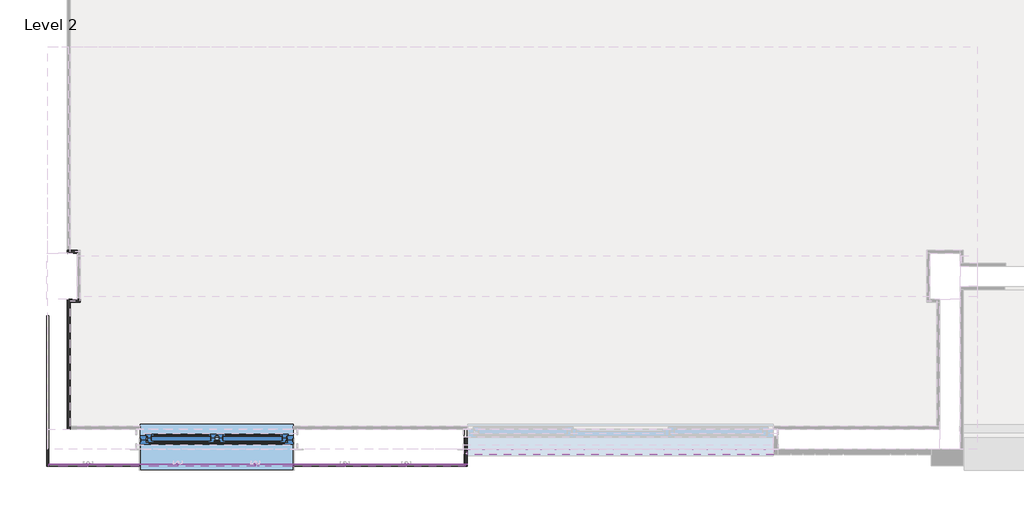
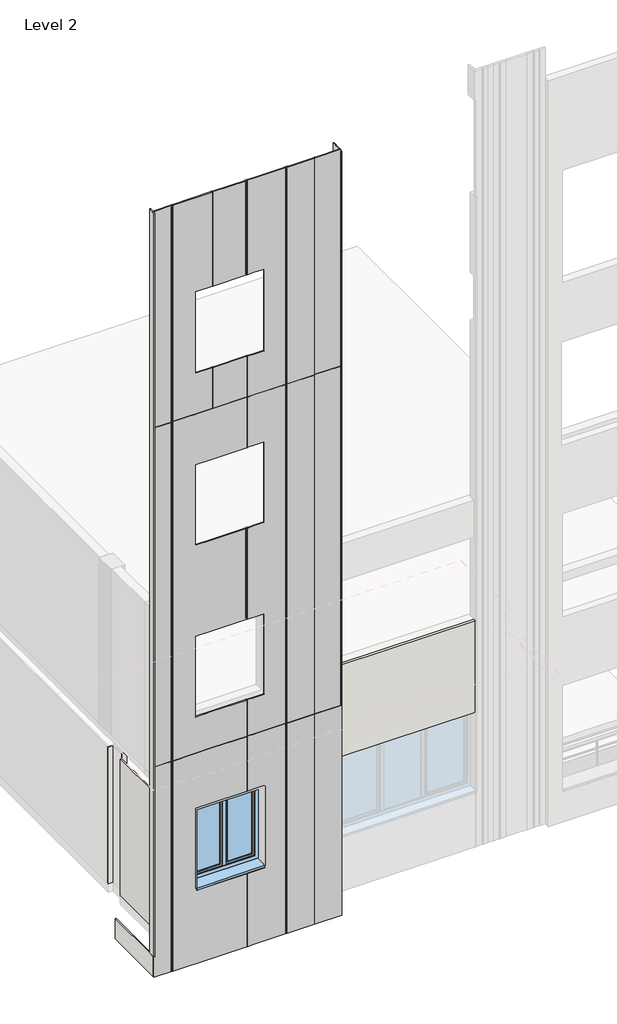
# One storey, part 1 of 3: 34 members, 16 plates, 8 walls, 1 window.
"""IFC4 building model written with IfcOpenShell, lengths in millimetres."""

from ifc_helpers import new_model, si_unit, frame, origin, place, context, project, spatial, polyline, outline, extrude, faceted_brep, transform, mapped, element, save
from components import circular_mullion_bz1_a1_mullion_cedae3f4, circular_mullion_bz1_a1_mullion_8e7961bc, circular_mullion_bz1_a1_mullion_760fcf40, circular_mullion_bz1_a1_mullion_cdbcedf2, circular_mullion_bz1_a1_mullion_96b2a463, circular_mullion_bz1_a1_mullion_186cd793, circular_mullion_bz1_a1_mullion_d469b72f, circular_mullion_bz1_a1_mullion_29318d9d, circular_mullion_bz1_a1_mullion_a37bb437, circular_mullion_bz1_a1_mullion_fa4fbc0e, circular_mullion_bz1_a1_mullion_d0ad5048, circular_mullion_bz1_a1_mullion_cc127a66, circular_mullion_bz1_a1_mullion_52fa444c, circular_mullion_bz1_a1_mullion_63dcf2e5, circular_mullion_bz1_a1_mullion_5795780b, circular_mullion_bz1_a1_mullion_f4887a20, circular_mullion_bz1_a1_mullion_b8262e4c, circular_mullion_bz1_a1_mullion_c4769f69, circular_mullion_bz1_a1_mullion_729713d3, circular_mullion_bz1_a1_mullion_a1f5a826, circular_mullion_bz1_a1_mullion_619e8430, bz1_windows_opening_hinge_s9000_double_vent_window_windows_b4b88814, bz1_windows_opening_hinge_s9000_double_vent_window_windows_c75da518

model = new_model("IFC4")

# Units and contexts
model_context = context("Model", 3, world=origin())
ifc_project = project(units=[si_unit("LENGTHUNIT", "METRE", prefix="MILLI")], contexts=[model_context])

# Site, building, storey
site = spatial("IfcSite", under=ifc_project)
building = spatial("IfcBuilding", under=site)
storey = spatial("IfcBuildingStorey", under=building, Name="Level 2", Elevation=4000.0)

# Members
placement = place(None, origin())
circular_mullion_bz1_a1_mullion_shape = circular_mullion_bz1_a1_mullion_cedae3f4(model_context)
element("IfcMember", 1, ObjectType="Circular Mullion : BZ1-A1-Mullion", at=placement, inside=storey, context=model_context, shape_type="MappedRepresentation", body=[
    mapped(circular_mullion_bz1_a1_mullion_shape, transform((-681.3999923, -5855.2459685, 3158.0), x_axis=(-1.0, 0.0, 0.0), y_axis=(0.0, 1.0, 0.0), z_axis=(0.0, 0.0, -1.0))),
])
element("IfcMember", 2, ObjectType="Circular Mullion : BZ1-A1-Mullion", at=placement, inside=storey, context=model_context, shape_type="MappedRepresentation", body=[
    mapped(circular_mullion_bz1_a1_mullion_shape, transform((-3807.2333254, -5855.2459685, 3158.0), x_axis=(-1.0, 0.0, 0.0), y_axis=(0.0, 1.0, 0.0), z_axis=(0.0, 0.0, -1.0))),
])
element("IfcMember", 3, ObjectType="Circular Mullion : BZ1-A1-Mullion", at=placement, inside=storey, context=model_context, shape_type="MappedRepresentation", body=[
    mapped(circular_mullion_bz1_a1_mullion_shape, transform((-1281.3999923, -5855.2459685, 3158.0), x_axis=(-1.0, 0.0, 0.0), y_axis=(0.0, 1.0, 0.0), z_axis=(0.0, 0.0, -1.0))),
])
circular_mullion_bz1_a1_mullion_2_shape = circular_mullion_bz1_a1_mullion_8e7961bc(model_context)
element("IfcMember", 4, ObjectType="Circular Mullion : BZ1-A1-Mullion", at=placement, inside=storey, context=model_context, shape_type="MappedRepresentation", body=[
    mapped(circular_mullion_bz1_a1_mullion_2_shape, transform((-681.3999923, -5855.2459685, 8057.563298), x_axis=(-1.0, 0.0, 0.0), y_axis=(0.0, 1.0, 0.0), z_axis=(0.0, 0.0, -1.0))),
])
element("IfcMember", 5, ObjectType="Circular Mullion : BZ1-A1-Mullion", at=placement, inside=storey, context=model_context, shape_type="MappedRepresentation", body=[
    mapped(circular_mullion_bz1_a1_mullion_2_shape, transform((-3807.2333254, -5855.2459685, 8057.563298), x_axis=(-1.0, 0.0, 0.0), y_axis=(0.0, 1.0, 0.0), z_axis=(0.0, 0.0, -1.0))),
])
element("IfcMember", 6, ObjectType="Circular Mullion : BZ1-A1-Mullion", at=placement, inside=storey, context=model_context, shape_type="MappedRepresentation", body=[
    mapped(circular_mullion_bz1_a1_mullion_2_shape, transform((-1281.3999923, -5855.2459685, 8057.563298), x_axis=(-1.0, 0.0, 0.0), y_axis=(0.0, 1.0, 0.0), z_axis=(0.0, 0.0, -1.0))),
])
circular_mullion_bz1_a1_mullion_3_shape = circular_mullion_bz1_a1_mullion_760fcf40(model_context)
element("IfcMember", 7, ObjectType="Circular Mullion : BZ1-A1-Mullion", at=placement, inside=storey, context=model_context, shape_type="MappedRepresentation", body=[
    mapped(circular_mullion_bz1_a1_mullion_3_shape, transform((-1256.3999923, -5855.2459685, 8057.563298), x_axis=(0.0, 0.0, 1.0), y_axis=(0.0, 1.0, 0.0), z_axis=(-1.0, 0.0, 0.0))),
])
element("IfcMember", 8, ObjectType="Circular Mullion : BZ1-A1-Mullion", at=placement, inside=storey, context=model_context, shape_type="MappedRepresentation", body=[
    mapped(circular_mullion_bz1_a1_mullion_3_shape, transform((-1256.3999923, -5855.2459685, 15957.1265959), x_axis=(0.0, 0.0, 1.0), y_axis=(0.0, 1.0, 0.0), z_axis=(-1.0, 0.0, 0.0))),
])
circular_mullion_bz1_a1_mullion_4_shape = circular_mullion_bz1_a1_mullion_cdbcedf2(model_context)
element("IfcMember", 9, ObjectType="Circular Mullion : BZ1-A1-Mullion", at=placement, inside=storey, context=model_context, shape_type="MappedRepresentation", body=[
    mapped(circular_mullion_bz1_a1_mullion_4_shape, transform((-3782.2333254, -5855.2459685, 8057.563298), x_axis=(0.0, 0.0, 1.0), y_axis=(0.0, 1.0, 0.0), z_axis=(-1.0, 0.0, 0.0))),
])
circular_mullion_bz1_a1_mullion_5_shape = circular_mullion_bz1_a1_mullion_96b2a463(model_context)
element("IfcMember", 10, ObjectType="Circular Mullion : BZ1-A1-Mullion", at=placement, inside=storey, context=model_context, shape_type="MappedRepresentation", body=[
    mapped(circular_mullion_bz1_a1_mullion_5_shape, transform((-2165.2888811, -5855.2459685, 10780.0), x_axis=(-1.0, 0.0, 0.0), y_axis=(0.0, 1.0, 0.0), z_axis=(0.0, 0.0, -1.0))),
])
circular_mullion_bz1_a1_mullion_6_shape = circular_mullion_bz1_a1_mullion_186cd793(model_context)
element("IfcMember", 11, ObjectType="Circular Mullion : BZ1-A1-Mullion", at=placement, inside=storey, context=model_context, shape_type="MappedRepresentation", body=[
    mapped(circular_mullion_bz1_a1_mullion_6_shape, transform((-2165.2888811, -5855.2459685, 3158.0), x_axis=(-1.0, 0.0, 0.0), y_axis=(0.0, 1.0, 0.0), z_axis=(0.0, 0.0, -1.0))),
])
circular_mullion_bz1_a1_mullion_7_shape = circular_mullion_bz1_a1_mullion_d469b72f(model_context)
element("IfcMember", 12, ObjectType="Circular Mullion : BZ1-A1-Mullion", at=placement, inside=storey, context=model_context, shape_type="MappedRepresentation", body=[
    mapped(circular_mullion_bz1_a1_mullion_7_shape, transform((-2165.2888811, -5855.2459685, 6778.0), x_axis=(-1.0, 0.0, 0.0), y_axis=(0.0, 1.0, 0.0), z_axis=(0.0, 0.0, -1.0))),
])
circular_mullion_bz1_a1_mullion_8_shape = circular_mullion_bz1_a1_mullion_29318d9d(model_context)
element("IfcMember", 13, ObjectType="Circular Mullion : BZ1-A1-Mullion", at=placement, inside=storey, context=model_context, shape_type="MappedRepresentation", body=[
    mapped(circular_mullion_bz1_a1_mullion_8_shape, transform((-2165.2888811, -5855.2459685, 14780.0), x_axis=(-1.0, 0.0, 0.0), y_axis=(0.0, 1.0, 0.0), z_axis=(0.0, 0.0, -1.0))),
])
circular_mullion_bz1_a1_mullion_9_shape = circular_mullion_bz1_a1_mullion_a37bb437(model_context)
element("IfcMember", 14, ObjectType="Circular Mullion : BZ1-A1-Mullion", at=placement, inside=storey, context=model_context, shape_type="MappedRepresentation", body=[
    mapped(circular_mullion_bz1_a1_mullion_9_shape, transform((-2165.2888811, -5855.2459685, 8057.563298), x_axis=(-1.0, 0.0, 0.0), y_axis=(0.0, 1.0, 0.0), z_axis=(0.0, 0.0, -1.0))),
])
circular_mullion_bz1_a1_mullion_10_shape = circular_mullion_bz1_a1_mullion_fa4fbc0e(model_context)
element("IfcMember", 15, ObjectType="Circular Mullion : BZ1-A1-Mullion", at=placement, inside=storey, context=model_context, shape_type="MappedRepresentation", body=[
    mapped(circular_mullion_bz1_a1_mullion_10_shape, transform((-2165.2888811, -5855.2459685, 15957.1265959), x_axis=(-1.0, 0.0, 0.0), y_axis=(0.0, 1.0, 0.0), z_axis=(0.0, 0.0, -1.0))),
])
circular_mullion_bz1_a1_mullion_11_shape = circular_mullion_bz1_a1_mullion_d0ad5048(model_context)
element("IfcMember", 16, ObjectType="Circular Mullion : BZ1-A1-Mullion", at=placement, inside=storey, context=model_context, shape_type="MappedRepresentation", body=[
    mapped(circular_mullion_bz1_a1_mullion_11_shape, transform((-2009.0851774, -5855.2459685, 8057.563298), x_axis=(0.0, 0.0, 1.0), y_axis=(0.0, 1.0, 0.0), z_axis=(-1.0, 0.0, 0.0))),
])
element("IfcMember", 17, ObjectType="Circular Mullion : BZ1-A1-Mullion", at=placement, inside=storey, context=model_context, shape_type="MappedRepresentation", body=[
    mapped(circular_mullion_bz1_a1_mullion_11_shape, transform((-2009.0851774, -5855.2459685, 15957.1265959), x_axis=(0.0, 0.0, 1.0), y_axis=(0.0, 1.0, 0.0), z_axis=(-1.0, 0.0, 0.0))),
])
circular_mullion_bz1_a1_mullion_12_shape = circular_mullion_bz1_a1_mullion_cc127a66(model_context)
element("IfcMember", 18, ObjectType="Circular Mullion : BZ1-A1-Mullion", at=placement, inside=storey, context=model_context, shape_type="MappedRepresentation", body=[
    mapped(circular_mullion_bz1_a1_mullion_12_shape, transform((-2123.3444367, -5855.2459685, 8057.563298), x_axis=(0.0, 0.0, 1.0), y_axis=(0.0, 1.0, 0.0), z_axis=(-1.0, 0.0, 0.0))),
])
element("IfcMember", 19, ObjectType="Circular Mullion : BZ1-A1-Mullion", at=placement, inside=storey, context=model_context, shape_type="MappedRepresentation", body=[
    mapped(circular_mullion_bz1_a1_mullion_12_shape, transform((-2123.3444367, -5855.2459685, 15957.1265959), x_axis=(0.0, 0.0, 1.0), y_axis=(0.0, 1.0, 0.0), z_axis=(-1.0, 0.0, 0.0))),
])
circular_mullion_bz1_a1_mullion_13_shape = circular_mullion_bz1_a1_mullion_52fa444c(model_context)
element("IfcMember", 20, ObjectType="Circular Mullion : BZ1-A1-Mullion", at=placement, inside=storey, context=model_context, shape_type="MappedRepresentation", body=[
    mapped(circular_mullion_bz1_a1_mullion_13_shape, transform((-3782.2333254, -5855.2459685, 15957.1265959), x_axis=(0.0, 0.0, 1.0), y_axis=(0.0, 1.0, 0.0), z_axis=(-1.0, 0.0, 0.0))),
])
circular_mullion_bz1_a1_mullion_14_shape = circular_mullion_bz1_a1_mullion_63dcf2e5(model_context)
element("IfcMember", 21, ObjectType="Circular Mullion : BZ1-A1-Mullion", at=placement, inside=storey, context=model_context, shape_type="MappedRepresentation", body=[
    mapped(circular_mullion_bz1_a1_mullion_14_shape, transform((-2923.3444367, -5855.2459685, 15932.1265959), x_axis=(-1.0, 0.0, 0.0), y_axis=(0.0, 1.0, 0.0), z_axis=(0.0, 0.0, -1.0))),
])
circular_mullion_bz1_a1_mullion_15_shape = circular_mullion_bz1_a1_mullion_5795780b(model_context)
element("IfcMember", 22, ObjectType="Circular Mullion : BZ1-A1-Mullion", at=placement, inside=storey, context=model_context, shape_type="MappedRepresentation", body=[
    mapped(circular_mullion_bz1_a1_mullion_15_shape, transform((-2140.2888811, -5855.2459685, 8057.563298), x_axis=(0.0, 0.0, 1.0), y_axis=(0.0, 1.0, 0.0), z_axis=(-1.0, 0.0, 0.0))),
])
element("IfcMember", 23, ObjectType="Circular Mullion : BZ1-A1-Mullion", at=placement, inside=storey, context=model_context, shape_type="MappedRepresentation", body=[
    mapped(circular_mullion_bz1_a1_mullion_15_shape, transform((-2140.2888811, -5855.2459685, 15957.1265959), x_axis=(0.0, 0.0, 1.0), y_axis=(0.0, 1.0, 0.0), z_axis=(-1.0, 0.0, 0.0))),
])
circular_mullion_bz1_a1_mullion_16_shape = circular_mullion_bz1_a1_mullion_f4887a20(model_context)
element("IfcMember", 24, ObjectType="Circular Mullion : BZ1-A1-Mullion", at=placement, inside=storey, context=model_context, shape_type="MappedRepresentation", body=[
    mapped(circular_mullion_bz1_a1_mullion_16_shape, transform((-2923.3444367, -5855.2459685, 8057.563298), x_axis=(0.0, 0.0, 1.0), y_axis=(0.0, 1.0, 0.0), z_axis=(-1.0, 0.0, 0.0))),
])
circular_mullion_bz1_a1_mullion_17_shape = circular_mullion_bz1_a1_mullion_b8262e4c(model_context)
element("IfcMember", 25, ObjectType="Circular Mullion : BZ1-A1-Mullion", at=placement, inside=storey, context=model_context, shape_type="MappedRepresentation", body=[
    mapped(circular_mullion_bz1_a1_mullion_17_shape, transform((-2898.3444367, -5855.2459685, 15957.1265959), x_axis=(0.0, 0.0, 1.0), y_axis=(0.0, 1.0, 0.0), z_axis=(-1.0, 0.0, 0.0))),
])
circular_mullion_bz1_a1_mullion_18_shape = circular_mullion_bz1_a1_mullion_c4769f69(model_context)
element("IfcMember", 26, ObjectType="Circular Mullion : BZ1-A1-Mullion", at=placement, inside=storey, context=model_context, shape_type="MappedRepresentation", body=[
    mapped(circular_mullion_bz1_a1_mullion_18_shape, transform((-4193.0666589, -5855.2459685, 8057.563298), x_axis=(0.0, 0.0, 1.0), y_axis=(0.0, 1.0, 0.0), z_axis=(-1.0, 0.0, 0.0))),
])
element("IfcMember", 27, ObjectType="Circular Mullion : BZ1-A1-Mullion", at=placement, inside=storey, context=model_context, shape_type="MappedRepresentation", body=[
    mapped(circular_mullion_bz1_a1_mullion_18_shape, transform((-4193.0666589, -5855.2459685, 15957.1265959), x_axis=(0.0, 0.0, 1.0), y_axis=(0.0, 1.0, 0.0), z_axis=(-1.0, 0.0, 0.0))),
])
circular_mullion_bz1_a1_mullion_19_shape = circular_mullion_bz1_a1_mullion_729713d3(model_context)
element("IfcMember", 28, ObjectType="Circular Mullion : BZ1-A1-Mullion", at=placement, inside=storey, context=model_context, shape_type="MappedRepresentation", body=[
    mapped(circular_mullion_bz1_a1_mullion_19_shape, transform((-656.3999923, -5855.2459685, 8057.563298), x_axis=(0.0, 0.0, 1.0), y_axis=(0.0, 1.0, 0.0), z_axis=(-1.0, 0.0, 0.0))),
])
element("IfcMember", 29, ObjectType="Circular Mullion : BZ1-A1-Mullion", at=placement, inside=storey, context=model_context, shape_type="MappedRepresentation", body=[
    mapped(circular_mullion_bz1_a1_mullion_19_shape, transform((-656.3999923, -5855.2459685, 15957.1265959), x_axis=(0.0, 0.0, 1.0), y_axis=(0.0, 1.0, 0.0), z_axis=(-1.0, 0.0, 0.0))),
])
circular_mullion_bz1_a1_mullion_20_shape = circular_mullion_bz1_a1_mullion_a1f5a826(model_context)
element("IfcMember", 30, ObjectType="Circular Mullion : BZ1-A1-Mullion", at=placement, inside=storey, context=model_context, shape_type="MappedRepresentation", body=[
    mapped(circular_mullion_bz1_a1_mullion_20_shape, transform((-681.3999923, -5855.2459685, 15957.1265959), x_axis=(-1.0, 0.0, 0.0), y_axis=(0.0, 1.0, 0.0), z_axis=(0.0, 0.0, -1.0))),
])
element("IfcMember", 31, ObjectType="Circular Mullion : BZ1-A1-Mullion", at=placement, inside=storey, context=model_context, shape_type="MappedRepresentation", body=[
    mapped(circular_mullion_bz1_a1_mullion_20_shape, transform((-3807.2333254, -5855.2459685, 15957.1265959), x_axis=(-1.0, 0.0, 0.0), y_axis=(0.0, 1.0, 0.0), z_axis=(0.0, 0.0, -1.0))),
])
element("IfcMember", 32, ObjectType="Circular Mullion : BZ1-A1-Mullion", at=placement, inside=storey, context=model_context, shape_type="MappedRepresentation", body=[
    mapped(circular_mullion_bz1_a1_mullion_20_shape, transform((-1281.3999923, -5855.2459685, 15957.1265959), x_axis=(-1.0, 0.0, 0.0), y_axis=(0.0, 1.0, 0.0), z_axis=(0.0, 0.0, -1.0))),
])
circular_mullion_bz1_a1_mullion_21_shape = circular_mullion_bz1_a1_mullion_619e8430(model_context)
element("IfcMember", 33, ObjectType="Circular Mullion : BZ1-A1-Mullion", at=placement, inside=storey, context=model_context, shape_type="MappedRepresentation", body=[
    mapped(circular_mullion_bz1_a1_mullion_21_shape, transform((-2165.2888811, -5855.2459685, 18805.0), x_axis=(-1.0, 0.0, 0.0), y_axis=(0.0, 1.0, 0.0), z_axis=(0.0, 0.0, -1.0))),
])
element("IfcMember", 34, ObjectType="Circular Mullion : BZ1-A1-Mullion", at=placement, inside=storey, context=model_context, shape_type="MappedRepresentation", body=[
    mapped(circular_mullion_bz1_a1_mullion_21_shape, transform((-2923.3444367, -5855.2459685, 18805.0), x_axis=(-1.0, 0.0, 0.0), y_axis=(0.0, 1.0, 0.0), z_axis=(0.0, 0.0, -1.0))),
])

# Plates
element("IfcPlate", 35, ObjectType="BZ1_fnsh_cement panel", at=placement, inside=storey, context=model_context, shape_type="Brep", body=[
    faceted_brep([(-3812.2333254, -5845.2459685, 15962.1265959), (-4193.0666589, -5845.2459685, 15962.1265959), (-4193.0666589, -5845.2459685, 21000.0), (-3812.2333254, -5845.2459685, 21000.0), (-3812.2333254, -5865.2459685, 15962.1265959), (-3812.2333254, -5865.2459685, 21000.0), (-4193.0666589, -5865.2459685, 21000.0), (-4193.0666589, -5865.2459685, 20947.950455), (-4193.0666589, -5865.2459685, 15962.1265959)], [[[0, 1, 2, 3]], [[4, 5, 6, 7, 8]], [[1, 0, 4, 8]], [[3, 2, 6, 5]], [[0, 3, 5, 4]], [[2, 1, 8, 7, 6]]]),
])
element("IfcPlate", 36, ObjectType="BZ1_fnsh_cement panel", at=placement, inside=storey, context=model_context, shape_type="SweptSolid", body=[
    extrude(outline(polyline([(-1276.3999923, -5845.2459685), (-686.3999923, -5845.2459685), (-686.3999923, -5865.2459685), (-1276.3999923, -5865.2459685), (-1276.3999923, -5845.2459685)])), frame((0.0, 0.0, 15962.1265959), z_axis=(0.0, 0.0, 1.0), x_axis=(1.0, 0.0, 0.0)), (0.0, 0.0, 1.0), 5037.8734041),
])
element("IfcPlate", 37, ObjectType="BZ1_fnsh_cement panel", at=placement, inside=storey, context=model_context, shape_type="Brep", body=[
    faceted_brep([(-100.2322612, -5845.2459685, 15962.1265959), (-676.3999923, -5845.2459685, 15962.1265959), (-676.3999923, -5845.2459685, 21000.0), (-100.2322612, -5845.2459685, 21000.0), (-100.2322612, -5865.2459685, 15962.1265959), (-100.2322612, -5865.2459685, 20955.8224517), (-100.2322612, -5865.2459685, 21000.0), (-676.3999923, -5865.2459685, 21000.0), (-676.3999923, -5865.2459685, 15962.1265959)], [[[0, 1, 2, 3]], [[4, 5, 6, 7, 8]], [[1, 0, 4, 8]], [[2, 1, 8, 7]], [[3, 2, 7, 6]], [[0, 3, 6, 5, 4]]]),
])
element("IfcPlate", 38, ObjectType="BZ1_fnsh_cement panel", at=placement, inside=storey, context=model_context, shape_type="SweptSolid", body=[
    extrude(outline(polyline([(-4193.0666589, -5845.2459685), (-3812.2333254, -5845.2459685), (-3812.2333254, -5865.2459685), (-4193.0666589, -5865.2459685), (-4193.0666589, -5845.2459685)])), frame((0.0, 0.0, 8062.563298), z_axis=(0.0, 0.0, 1.0), x_axis=(1.0, 0.0, 0.0)), (0.0, 0.0, 1.0), 7889.563298),
])
element("IfcPlate", 39, ObjectType="BZ1_fnsh_cement panel", at=placement, inside=storey, context=model_context, shape_type="SweptSolid", body=[
    extrude(outline(polyline([(-1276.3999923, -5845.2459685), (-686.3999923, -5845.2459685), (-686.3999923, -5865.2459685), (-1276.3999923, -5865.2459685), (-1276.3999923, -5845.2459685)])), frame((0.0, 0.0, 8062.563298), z_axis=(0.0, 0.0, 1.0), x_axis=(1.0, 0.0, 0.0)), (0.0, 0.0, 1.0), 7889.563298),
])
element("IfcPlate", 40, ObjectType="BZ1_fnsh_cement panel", at=placement, inside=storey, context=model_context, shape_type="Brep", body=[
    faceted_brep([(-100.2322612, -5845.2459685, 8062.563298), (-676.3999923, -5845.2459685, 8062.563298), (-676.3999923, -5845.2459685, 15952.1265959), (-100.2322612, -5845.2459685, 15952.1265959), (-100.2322612, -5865.2459685, 8062.563298), (-100.2322612, -5865.2459685, 15952.1265959), (-676.3999923, -5865.2459685, 15952.1265959), (-676.3999923, -5865.2459685, 8062.563298), (-100.2322612, -5855.2459685, 8062.563298)], [[[0, 1, 2, 3]], [[4, 5, 6, 7]], [[1, 0, 8, 4, 7]], [[2, 1, 7, 6]], [[3, 2, 6, 5]], [[0, 3, 5, 4, 8]]]),
])
element("IfcPlate", 41, ObjectType="BZ1_fnsh_cement panel", at=placement, inside=storey, context=model_context, shape_type="SweptSolid", body=[
    extrude(outline(polyline([(3158.0, -3812.2333254), (8052.563298, -3812.2333254), (8052.563298, -4193.0666589), (3630.0, -4193.0666589), (3630.0, -4213.0666589), (3158.0, -4213.0666589), (3158.0, -3812.2333254)])), frame((0.0, -5865.2459685, 0.0), z_axis=(0.0, 1.0, 0.0), x_axis=(0.0, 0.0, 1.0)), (0.0, 0.0, 1.0), 20.0),
])
element("IfcPlate", 42, ObjectType="BZ1_fnsh_cement panel", at=placement, inside=storey, context=model_context, shape_type="SweptSolid", body=[
    extrude(outline(polyline([(-1276.3999923, -5845.2459685), (-686.3999923, -5845.2459685), (-686.3999923, -5865.2459685), (-1276.3999923, -5865.2459685), (-1276.3999923, -5845.2459685)])), frame((0.0, 0.0, 3158.0), z_axis=(0.0, 0.0, 1.0), x_axis=(1.0, 0.0, 0.0)), (0.0, 0.0, 1.0), 4894.563298),
])
element("IfcPlate", 43, ObjectType="BZ1_fnsh_cement panel", at=placement, inside=storey, context=model_context, shape_type="Brep", body=[
    faceted_brep([(-80.2322612, -5845.2459685, 3158.0), (-676.3999923, -5845.2459685, 3158.0), (-676.3999923, -5845.2459685, 8052.563298), (-100.2322612, -5845.2459685, 8052.563298), (-100.2322612, -5845.2459685, 3629.0348953), (-80.2322612, -5845.2459685, 3629.0348953), (-676.3999923, -5865.2459685, 3158.0), (-80.2322612, -5865.2459685, 3158.0), (-80.2322612, -5865.2459685, 8052.563298), (-676.3999923, -5865.2459685, 8052.563298), (-80.2322612, -5855.2459685, 8052.563298), (-100.2322612, -5855.2459685, 8052.563298), (-80.2322612, -5855.2459685, 3629.0348953), (-100.2322612, -5855.2459685, 3630.0), (-100.2322612, -5855.2459685, 3629.0348953), (-89.3166589, -5855.2459685, 3629.0348953)], [[[0, 1, 2, 3, 4, 5]], [[6, 7, 8, 9]], [[1, 0, 7, 6]], [[2, 1, 6, 9]], [[9, 8, 10, 11, 3, 2]], [[8, 7, 0, 5, 12, 10]], [[11, 13, 14, 4, 3]], [[14, 15, 12, 5, 4]], [[12, 15, 14, 13, 11, 10]]]),
])
element("IfcPlate", 44, ObjectType="BZ1_fnsh_cement panel", at=placement, inside=storey, context=model_context, shape_type="Brep", body=[
    faceted_brep([(-1286.3999923, -5845.2459685, 3158.0), (-2009.0851774, -5845.2459685, 3158.0), (-2123.3444367, -5845.2459685, 3158.0), (-2160.2888811, -5845.2459685, 3158.0), (-2160.2888811, -5845.2459685, 4900.0), (-2123.3444367, -5845.2459685, 4900.0), (-2009.0851774, -5845.2459685, 4900.0), (-1780.5666589, -5845.2459685, 4900.0), (-1780.5666589, -5845.2459685, 6778.0), (-2009.0851774, -5845.2459685, 6778.0), (-2123.3444367, -5845.2459685, 6778.0), (-2160.2888811, -5845.2459685, 6778.0), (-2160.2888811, -5845.2459685, 8052.563298), (-2123.3444367, -5845.2459685, 8052.563298), (-2009.0851774, -5845.2459685, 8052.563298), (-1286.3999923, -5845.2459685, 8052.563298), (-2160.2888811, -5865.2459685, 3158.0), (-2123.3444367, -5865.2459685, 3158.0), (-2009.0851774, -5865.2459685, 3158.0), (-1286.3999923, -5865.2459685, 3158.0), (-1286.3999923, -5865.2459685, 8052.563298), (-2009.0851774, -5865.2459685, 8052.563298), (-2123.3444367, -5865.2459685, 8052.563298), (-2160.2888811, -5865.2459685, 8052.563298), (-2160.2888811, -5865.2459685, 6778.0), (-2123.3444367, -5865.2459685, 6778.0), (-2009.0851774, -5865.2459685, 6778.0), (-1780.5666589, -5865.2459685, 6778.0), (-1780.5666589, -5865.2459685, 4900.0), (-2009.0851774, -5865.2459685, 4900.0), (-2123.3444367, -5865.2459685, 4900.0), (-2160.2888811, -5865.2459685, 4900.0)], [[[0, 1, 2, 3, 4, 5, 6, 7, 8, 9, 10, 11, 12, 13, 14, 15]], [[16, 17, 18, 19, 20, 21, 22, 23, 24, 25, 26, 27, 28, 29, 30, 31]], [[17, 16, 3, 2, 1, 0, 19, 18]], [[7, 28, 27, 8]], [[8, 27, 26, 9]], [[14, 21, 20, 15]], [[15, 20, 19, 0]], [[5, 30, 29, 6]], [[10, 25, 24, 11]], [[12, 23, 22, 13]], [[6, 29, 28, 7]], [[13, 22, 21, 14]], [[9, 26, 25, 10]], [[31, 4, 3, 16]], [[4, 31, 30, 5]], [[11, 24, 23, 12]]]),
])
element("IfcPlate", 45, ObjectType="BZ1_fnsh_cement panel", at=placement, inside=storey, context=model_context, shape_type="SweptSolid", body=[
    extrude(outline(polyline([(10780.0, -2009.0851774), (10780.0, -1780.5666589), (8904.0, -1780.5666589), (8904.0, -2009.0851774), (8904.0, -2123.3444367), (8904.0, -2160.2888811), (8062.563298, -2160.2888811), (8062.563298, -2123.3444367), (8062.563298, -2009.0851774), (8062.563298, -1286.3999923), (15952.1265959, -1286.3999923), (15952.1265959, -2009.0851774), (15952.1265959, -2123.3444367), (15952.1265959, -2160.2888811), (14780.0, -2160.2888811), (14780.0, -2123.3444367), (14780.0, -2009.0851774), (14780.0, -1780.5666589), (12904.0, -1780.5666589), (12904.0, -2009.0851774), (12904.0, -2123.3444367), (12904.0, -2160.2888811), (10780.0, -2160.2888811), (10780.0, -2123.3444367), (10780.0, -2009.0851774)])), frame((0.0, -5865.2459685, 0.0), z_axis=(0.0, 1.0, 0.0), x_axis=(0.0, 0.0, 1.0)), (0.0, 0.0, 1.0), 20.0),
])
element("IfcPlate", 46, ObjectType="BZ1_fnsh_cement panel", at=placement, inside=storey, context=model_context, shape_type="Brep", body=[
    faceted_brep([(-2160.2888811, -5845.2459685, 21000.0), (-2123.3444367, -5845.2459685, 21000.0), (-2009.0851774, -5845.2459685, 21000.0), (-1286.3999923, -5845.2459685, 21000.0), (-1286.3999923, -5845.2459685, 15962.1265959), (-2009.0851774, -5845.2459685, 15962.1265959), (-2123.3444367, -5845.2459685, 15962.1265959), (-2160.2888811, -5845.2459685, 15962.1265959), (-2160.2888811, -5845.2459685, 16904.0), (-2123.3444367, -5845.2459685, 16904.0), (-2009.0851774, -5845.2459685, 16904.0), (-1780.5666589, -5845.2459685, 16904.0), (-1780.5666589, -5845.2459685, 18805.0), (-2009.0851774, -5845.2459685, 18805.0), (-2123.3444367, -5845.2459685, 18805.0), (-2160.2888811, -5845.2459685, 18805.0), (-1286.3999923, -5865.2459685, 21000.0), (-2009.0851774, -5865.2459685, 21000.0), (-2123.3444367, -5865.2459685, 21000.0), (-2160.2888811, -5865.2459685, 21000.0), (-2160.2888811, -5865.2459685, 18805.0), (-2123.3444367, -5865.2459685, 18805.0), (-2009.0851774, -5865.2459685, 18805.0), (-1780.5666589, -5865.2459685, 18805.0), (-1780.5666589, -5865.2459685, 16904.0), (-2009.0851774, -5865.2459685, 16904.0), (-2123.3444367, -5865.2459685, 16904.0), (-2160.2888811, -5865.2459685, 16904.0), (-2160.2888811, -5865.2459685, 15962.1265959), (-2123.3444367, -5865.2459685, 15962.1265959), (-2009.0851774, -5865.2459685, 15962.1265959), (-1286.3999923, -5865.2459685, 15962.1265959)], [[[0, 1, 2, 3, 4, 5, 6, 7, 8, 9, 10, 11, 12, 13, 14, 15]], [[16, 17, 18, 19, 20, 21, 22, 23, 24, 25, 26, 27, 28, 29, 30, 31]], [[17, 16, 3, 2, 1, 0, 19, 18]], [[11, 24, 23, 12]], [[12, 23, 22, 13]], [[30, 5, 4, 31]], [[31, 4, 3, 16]], [[9, 26, 25, 10]], [[10, 25, 24, 11]], [[5, 30, 29, 6]], [[13, 22, 21, 14]], [[6, 29, 28, 7]], [[7, 28, 27, 8]], [[8, 27, 26, 9]], [[14, 21, 20, 15]], [[15, 20, 19, 0]]]),
])
element("IfcPlate", 47, ObjectType="BZ1_fnsh_cement panel", at=placement, inside=storey, context=model_context, shape_type="SweptSolid", body=[
    extrude(outline(polyline([(8062.563298, -2923.3444367), (8062.563298, -2170.2888811), (8904.0, -2170.2888811), (8904.0, -2923.3444367), (8904.0, -3300.5666589), (10780.0, -3300.5666589), (10780.0, -2923.3444367), (10780.0, -2170.2888811), (12904.0, -2170.2888811), (12904.0, -2923.3444367), (12904.0, -3300.5666589), (14780.0, -3300.5666589), (14780.0, -2923.3444367), (14780.0, -2170.2888811), (15952.1265959, -2170.2888811), (15952.1265959, -2923.3444367), (15952.1265959, -3802.2333254), (8062.563298, -3802.2333254), (8062.563298, -2923.3444367)])), frame((0.0, -5865.2459685, 0.0), z_axis=(0.0, 1.0, 0.0), x_axis=(0.0, 0.0, 1.0)), (0.0, 0.0, 1.0), 20.0),
])
element("IfcPlate", 48, ObjectType="BZ1_fnsh_cement panel", at=placement, inside=storey, context=model_context, shape_type="Brep", body=[
    faceted_brep([(-2170.2888811, -5845.2459685, 3158.0), (-2923.3444367, -5845.2459685, 3158.0), (-3802.2333254, -5845.2459685, 3158.0), (-3802.2333254, -5845.2459685, 8052.563298), (-2923.3444367, -5845.2459685, 8052.563298), (-2170.2888811, -5845.2459685, 8052.563298), (-2170.2888811, -5845.2459685, 6778.0), (-2923.3444367, -5845.2459685, 6778.0), (-3300.5666589, -5845.2459685, 6778.0), (-3300.5666589, -5845.2459685, 4900.0), (-2923.3444367, -5845.2459685, 4900.0), (-2170.2888811, -5845.2459685, 4900.0), (-3802.2333254, -5865.2459685, 3158.0), (-2923.3444367, -5865.2459685, 3158.0), (-2170.2888811, -5865.2459685, 3158.0), (-2170.2888811, -5865.2459685, 4900.0), (-2923.3444367, -5865.2459685, 4900.0), (-3300.5666589, -5865.2459685, 4900.0), (-3300.5666589, -5865.2459685, 6778.0), (-2923.3444367, -5865.2459685, 6778.0), (-2170.2888811, -5865.2459685, 6778.0), (-2170.2888811, -5865.2459685, 8052.563298), (-2923.3444367, -5865.2459685, 8052.563298), (-3802.2333254, -5865.2459685, 8052.563298)], [[[0, 1, 2, 3, 4, 5, 6, 7, 8, 9, 10, 11]], [[12, 13, 14, 15, 16, 17, 18, 19, 20, 21, 22, 23]], [[13, 12, 2, 1, 0, 14]], [[23, 3, 2, 12]], [[3, 23, 22, 4]], [[4, 22, 21, 5]], [[5, 21, 20, 6]], [[6, 20, 19, 7]], [[7, 19, 18, 8]], [[8, 18, 17, 9]], [[9, 17, 16, 10]], [[10, 16, 15, 11]], [[11, 15, 14, 0]]]),
])
element("IfcPlate", 49, ObjectType="BZ1_fnsh_cement panel", at=placement, inside=storey, context=model_context, shape_type="SweptSolid", body=[
    extrude(outline(polyline([(-2918.3444367, -5865.2459685), (-2918.3444367, -5845.2459685), (-2170.2888811, -5845.2459685), (-2170.2888811, -5865.2459685), (-2918.3444367, -5865.2459685)])), frame((0.0, 0.0, 18805.0), z_axis=(0.0, 0.0, 1.0), x_axis=(1.0, 0.0, 0.0)), (0.0, 0.0, 1.0), 2195.0),
    extrude(outline(polyline([(-2918.3444367, -5865.2459685), (-2918.3444367, -5845.2459685), (-2170.2888811, -5845.2459685), (-2170.2888811, -5865.2459685), (-2918.3444367, -5865.2459685)])), frame((0.0, 0.0, 15962.1265959), z_axis=(0.0, 0.0, 1.0), x_axis=(1.0, 0.0, 0.0)), (0.0, 0.0, 1.0), 941.8734041),
])
element("IfcPlate", 50, ObjectType="BZ1_fnsh_cement panel", at=placement, inside=storey, context=model_context, shape_type="SweptSolid", body=[
    extrude(outline(polyline([(21000.0, -2928.3444367), (21000.0, -3802.2333254), (15962.1265959, -3802.2333254), (15962.1265959, -2928.3444367), (16904.0, -2928.3444367), (16904.0, -3300.5666589), (18805.0, -3300.5666589), (18805.0, -2928.3444367), (21000.0, -2928.3444367)])), frame((0.0, -5865.2459685, 0.0), z_axis=(0.0, 1.0, 0.0), x_axis=(0.0, 0.0, 1.0)), (0.0, 0.0, 1.0), 20.0),
])

# Walls
element("IfcWall", 51, ObjectType="BZ1_fnsh_white stucoo_5cm", at=placement, inside=storey, context=model_context, shape_type="Brep", body=[
    faceted_brep([(-80.2322612, -5700.9799478, 8900.0), (2927.4333411, -5700.9799478, 8900.0), (2927.4333411, -5700.9799478, 7670.0), (2927.4333411, -5700.9799478, 6770.0), (2922.4333411, -5700.9799478, 6770.0), (2922.4333411, -5700.9799478, 6810.0), (-80.2322612, -5700.9799478, 6810.0), (-80.2322612, -5750.9799478, 6770.0), (2927.4333411, -5750.9799478, 6770.0), (2927.4333411, -5750.9799478, 8900.0), (-80.2322612, -5750.9799478, 8900.0), (2922.4333411, -5743.4647185, 6810.0), (-80.2322612, -5743.4647185, 6810.0), (2922.4333411, -5743.4647185, 6770.0), (-80.2322612, -5743.4647185, 6770.0)], [[[0, 1, 2, 3, 4, 5, 6]], [[7, 8, 9, 10]], [[3, 2, 1, 9, 8]], [[5, 11, 12, 6]], [[11, 13, 14, 12]], [[8, 7, 14, 13, 4, 3]], [[1, 0, 10, 9]], [[13, 11, 5, 4]], [[7, 10, 0, 6, 12, 14]]]),
])
element("IfcWall", 52, ObjectType="BZ1_fnsh_gypsun3cm", at=placement, inside=storey, context=model_context, shape_type="Brep", body=[
    faceted_brep([(-3980.5666589, -5500.9647185, 4000.0), (-3980.5666589, -4255.9647185, 4000.0), (-3980.5666589, -4225.9647185, 4000.0), (-3980.5666589, -4225.9647185, 7175.0), (-3980.5666589, -5500.9647185, 7175.0), (-4010.5666589, -5500.9647185, 4000.0), (-4010.5666589, -5500.9647185, 7175.0), (-4010.5666589, -4225.9647185, 7175.0), (-4010.5666589, -4225.9647185, 4000.0)], [[[0, 1, 2, 3, 4]], [[5, 6, 7, 8]], [[2, 1, 0, 5, 8]], [[4, 3, 7, 6]], [[0, 4, 6, 5]], [[3, 2, 8, 7]]]),
])
element("IfcWall", 53, ObjectType="BZ1_fnsh_gypsun3cm", at=placement, inside=storey, context=model_context, shape_type="Brep", body=[
    faceted_brep([(-3980.5666589, -4255.9647185, 4000.0), (-3880.5666589, -4255.9647185, 4000.0), (-3880.5666589, -4255.9647185, 7300.0), (-3980.5666589, -4255.9647185, 7300.0), (-3980.5666589, -4225.9647185, 4000.0), (-3980.5666589, -4225.9647185, 7175.0), (-3980.5666589, -4225.9647185, 7300.0), (-3880.5666589, -4225.9647185, 7300.0), (-3880.5666589, -4225.9647185, 7180.0), (-3880.5666589, -4225.9647185, 4000.0), (-3910.5666589, -4225.9647185, 4000.0)], [[[0, 1, 2, 3]], [[4, 5, 6, 7, 8, 9, 10]], [[1, 0, 4, 10, 9]], [[3, 2, 7, 6]], [[0, 3, 6, 5, 4]], [[2, 1, 9, 8, 7]]]),
])
element("IfcWall", 54, ObjectType="BZ1_fnsh_gypsun3cm", at=placement, inside=storey, context=model_context, shape_type="Brep", body=[
    faceted_brep([(-3910.5666589, -3745.9647185, 4000.0), (-3980.5666589, -3745.9647185, 4000.0), (-4010.5666589, -3745.9647185, 4000.0), (-4010.5666589, -3745.9647185, 7180.0), (-3980.5666589, -3745.9647185, 7180.0), (-3910.5666589, -3745.9647185, 7180.0), (-3910.5666589, -3775.9647185, 4000.0), (-3910.5666589, -3775.9647185, 7180.0), (-4010.5666589, -3775.9647185, 7180.0), (-4010.5666589, -3775.9647185, 4000.0)], [[[0, 1, 2, 3, 4, 5]], [[6, 7, 8, 9]], [[2, 1, 0, 6, 9]], [[5, 4, 3, 8, 7]], [[0, 5, 7, 6]], [[3, 2, 9, 8]]]),
])
element("IfcWall", 55, ObjectType="BZ1_fnsh_cement panel", at=placement, inside=storey, context=model_context, shape_type="Brep", body=[
    faceted_brep([(-100.2322612, -5865.2459685, 20955.8224517), (-100.2322612, -5583.4647185, 20982.0166766), (-100.2322612, -5583.4647185, 3630.0), (-100.2322612, -5855.2459685, 3630.0), (-100.2322612, -5855.2459685, 8052.563298), (-100.2322612, -5855.2459685, 8062.563298), (-100.2322612, -5865.2459685, 8062.563298), (-100.2322612, -5865.2459685, 15952.1265959), (-100.2322612, -5865.2459685, 15962.1265959), (-80.2322612, -5855.2459685, 3629.0348953), (-80.2322612, -5845.2459685, 3629.0348953), (-80.2322612, -5583.4647185, 3629.0348953), (-80.2322612, -5583.4647185, 20982.0166766), (-80.2322612, -5865.2459685, 20955.8224517), (-80.2322612, -5865.2459685, 8062.563298), (-80.2322612, -5855.2459685, 8062.563298), (-80.2322612, -5855.2459685, 8052.563298), (-89.3166589, -5855.2459685, 3629.0348953), (-89.3166589, -5583.4647185, 3629.0348953), (-89.3166589, -5583.4647185, 3630.0), (-89.3166589, -5855.2459685, 3630.0)], [[[0, 1, 2, 3, 4, 5, 6, 7, 8]], [[9, 10, 11, 12, 13, 14, 15, 16]], [[11, 10, 9, 17, 18]], [[1, 0, 13, 12]], [[12, 11, 18, 19, 2, 1]], [[20, 19, 18, 17]], [[19, 20, 3, 2]], [[9, 16, 15, 5, 4, 3, 20, 17]], [[6, 5, 15, 14]], [[13, 0, 8, 7, 6, 14]]]),
])
element("IfcWall", 56, ObjectType="BZ1_fnsh_cement panel", at=placement, inside=storey, context=model_context, shape_type="Brep", body=[
    faceted_brep([(-89.3166589, -5855.2459685, 3158.0), (-89.3166589, -4387.9647185, 3158.0), (-89.3166589, -4387.9647185, 3630.0), (-89.3166589, -5583.4647185, 3630.0), (-89.3166589, -5855.2459685, 3630.0), (-89.3166589, -5855.2459685, 3629.0348953), (-109.3166589, -5855.2459685, 3158.0), (-109.3166589, -5855.2459685, 3630.0), (-109.3166589, -4387.9647185, 3630.0), (-109.3166589, -4387.9647185, 3158.0), (-100.2322612, -5855.2459685, 3630.0)], [[[0, 1, 2, 3, 4, 5]], [[6, 7, 8, 9]], [[1, 0, 6, 9]], [[2, 1, 9, 8]], [[4, 3, 2, 8, 7, 10]], [[0, 5, 4, 10, 7, 6]]]),
])
element("IfcWall", 57, ObjectType="BZ1_fnsh_cement panel", at=placement, inside=storey, context=model_context, shape_type="Brep", body=[
    faceted_brep([(-4213.0666589, -5700.9647185, 20958.8382744), (-4213.0666589, -5700.9647185, 3630.0), (-4213.0666589, -5845.2459685, 3630.0), (-4213.0666589, -5865.2459685, 3630.0), (-4213.0666589, -5865.2459685, 20947.950455), (-4193.0666589, -5700.9647185, 3630.0), (-4193.0666589, -5700.9647185, 20958.8382744), (-4193.0666589, -5865.2459685, 20947.950455), (-4193.0666589, -5865.2459685, 15962.1265959), (-4193.0666589, -5865.2459685, 15952.1265959), (-4193.0666589, -5865.2459685, 8062.563298), (-4193.0666589, -5865.2459685, 8052.563298), (-4193.0666589, -5865.2459685, 3630.0), (-4193.0666589, -5845.2459685, 3630.0)], [[[0, 1, 2, 3, 4]], [[5, 6, 7, 8, 9, 10, 11, 12, 13]], [[3, 2, 1, 5, 13, 12]], [[0, 4, 7, 6]], [[0, 6, 5, 1]], [[3, 12, 11, 10, 9, 8, 7, 4]]]),
])
element("IfcWall", 58, ObjectType="BZ1_fnsh_cement panel", at=placement, inside=storey, context=model_context, shape_type="Brep", body=[
    faceted_brep([(-4193.0666589, -5845.2459685, 3158.0), (-4193.0666589, -4387.9647185, 3158.0), (-4193.0666589, -4387.9647185, 3630.0), (-4193.0666589, -5845.2459685, 3630.0), (-4213.0666589, -5845.2459685, 3158.0), (-4213.0666589, -5845.2459685, 3630.0), (-4213.0666589, -5700.9647185, 3630.0), (-4213.0666589, -4387.9647185, 3630.0), (-4213.0666589, -4387.9647185, 3158.0)], [[[0, 1, 2, 3]], [[4, 5, 6, 7, 8]], [[1, 0, 4, 8]], [[2, 1, 8, 7]], [[3, 2, 7, 6, 5]], [[0, 3, 5, 4]]]),
])

# Window
bz1_windows_opening_hinge_s9000_double_vent_window_windows_shape = bz1_windows_opening_hinge_s9000_double_vent_window_windows_b4b88814(model_context)
bz1_windows_opening_hinge_s9000_double_vent_window_windows_2_shape = bz1_windows_opening_hinge_s9000_double_vent_window_windows_c75da518(model_context)
element("IfcWindow", 59, ObjectType="BZ1_Windows_Opening-Hinge_S9000-Double-Vent-Window : Windows_Opening-Hinge_S9000-Double-Vent-Window", at=placement, inside=storey, context=model_context, shape_type="MappedRepresentation", body=[
    mapped(bz1_windows_opening_hinge_s9000_double_vent_window_windows_shape, transform((-2540.5666589, -5600.9647185, 4100.0), x_axis=(-1.0, 0.0, 0.0), y_axis=(0.0, -1.0, 0.0), z_axis=(0.0, 0.0, 1.0))),
    mapped(bz1_windows_opening_hinge_s9000_double_vent_window_windows_2_shape, transform((-2540.5666589, -5600.9647185, 4100.0), x_axis=(-1.0, 0.0, 0.0), y_axis=(0.0, -1.0, 0.0), z_axis=(0.0, 0.0, 1.0))),
])

save(model, "model.ifc")
